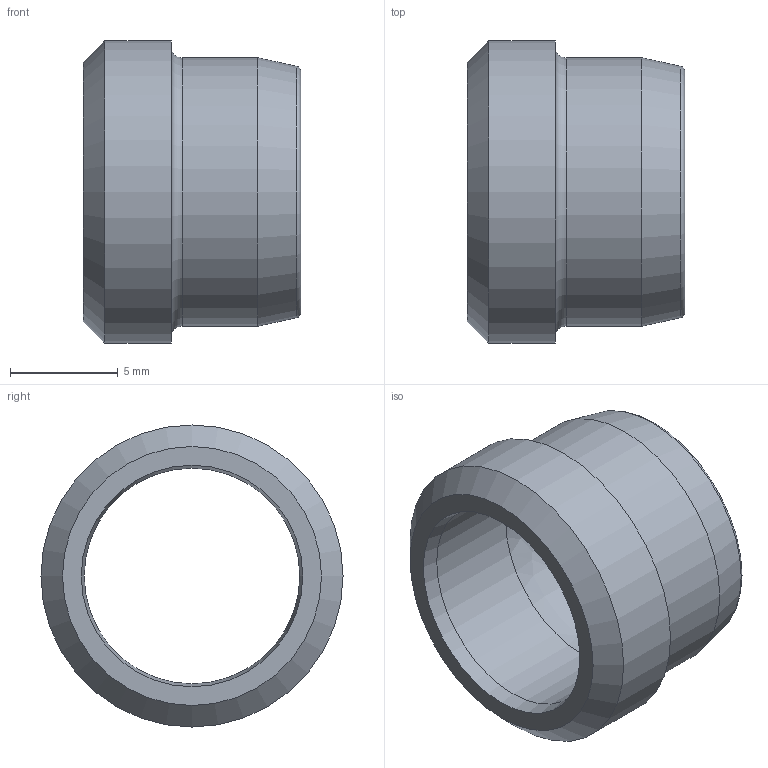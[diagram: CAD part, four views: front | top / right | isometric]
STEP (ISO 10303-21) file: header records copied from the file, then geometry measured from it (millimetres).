
FILE_DESCRIPTION( ( 'Unknown' ), '1' );
FILE_NAME( 'C:/Users/p.nanko/Desktop/3D SR/D10L_S.stp', 'Unknown', ( 'Peter Nanko' ), ( 'Armaturen Arndt' ), 'PSStep 14.0', 'Solid Edge ST4', ' ' );
FILE_SCHEMA( ( 'AUTOMOTIVE_DESIGN { 1 0 10303 214 1 1 1 1 }' ) );
Length unit declared in the file: millimetre
Products named in the file (1): 1001ESTERNO#0
Bounding box: 10.07 x 14 x 14 mm (x, y, z)
Volume: 498.1 mm3; surface area: 839.8 mm2
Topology: 1 solids, 1 shells, 15 faces, 31 edges, 20 vertices
Faces by surface type: plane 4, cone 4, torus 3, cylinder 3, bspline 1
Full cylindrical faces by diameter (mm): 10 x1, 12.45 x1, 14 x1
Entity records: 467 total; most frequent: CARTESIAN_POINT 73, DIRECTION 60, AXIS2_PLACEMENT_3D 30, EDGE_LOOP 30, ORIENTED_EDGE 30, FACE_OUTER_BOUND 22, STYLED_ITEM 15, PRESENTATION_STYLE_ASSIGNMENT 15
